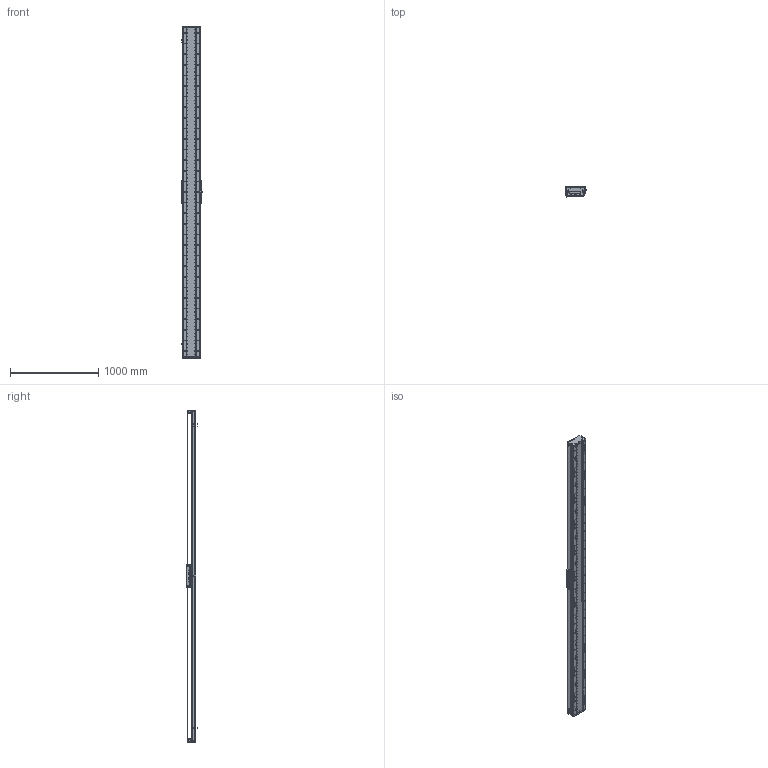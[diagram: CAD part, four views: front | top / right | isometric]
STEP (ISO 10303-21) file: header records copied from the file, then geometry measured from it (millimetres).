
FILE_DESCRIPTION (( 'STEP AP203' ), '1' );
FILE_NAME ('DA-C195-C3-T3420-C010-0.2 眻盄萇儂.STEP', '2025-08-15T01:26:04', ( '' ), ( '' ), 'SwSTEP 2.0', 'SolidWorks 2019', '' );
FILE_SCHEMA (( 'CONFIG_CONTROL_DESIGN' ));
Length unit declared in the file: millimetre
Products named in the file (15): DA195詩湍郪璃; DA195詩湍菜輸; MS200 棠掑喜S315-T240; DA-C195-C3-T3420-C010-0.2 眻盄萇儂; PM-T45ㄗ侂狟ㄘ; DA195詩湍嶺輸; LMT黍杅芛; IU-CU195-L-00 菁釱(L3720); DA95-HXJ-00 遣喳砎蝶; DA-C195-GD-DB-H-00 傷啣; DA195詩湍裔啣; CU195-C3賑輸-俋楷; 葩璃 DA95-GT-T-00; IU-CU195-L 菁釱絳寢; DA165-GYP-00 光电感应片(默认)
Assembly tree (29 placements, depth 3):
  DA-C195-C3-T3420-C010-0.2 眻盄萇儂
    DA195詩湍郪璃
      DA195詩湍菜輸  x2
      DA195詩湍裔啣
      DA195詩湍嶺輸  x2
      DA95-HXJ-00 遣喳砎蝶  x8
      DA-C195-GD-DB-H-00 傷啣  x2
    IU-CU195-L 菁釱絳寢
      IU-CU195-L-00 菁釱(L3720)
      葩璃 DA95-GT-T-00  x4
    LMT黍杅芛
    MS200 棠掑喜S315-T240
    PM-T45ㄗ侂狟ㄘ  x3
    DA165-GYP-00 光电感应片(默认)
    CU195-C3賑輸-俋楷
Bounding box: 248 x 115.45 x 3760 mm (x, y, z)
Volume: 21169638 mm3; surface area: 6300493 mm2
Topology: 86 solids, 118 shells, 4794 faces, 13959 edges, 8865 vertices
Faces by surface type: cylinder 2810, plane 1382, cone 514, torus 52, sphere 36
Entity records: 163383 total; most frequent: CARTESIAN_POINT 47184, ORIENTED_EDGE 24834, DIRECTION 23062, EDGE_CURVE 12417, AXIS2_PLACEMENT_3D 8689, VERTEX_POINT 8067, LINE 5684, VECTOR 5684
